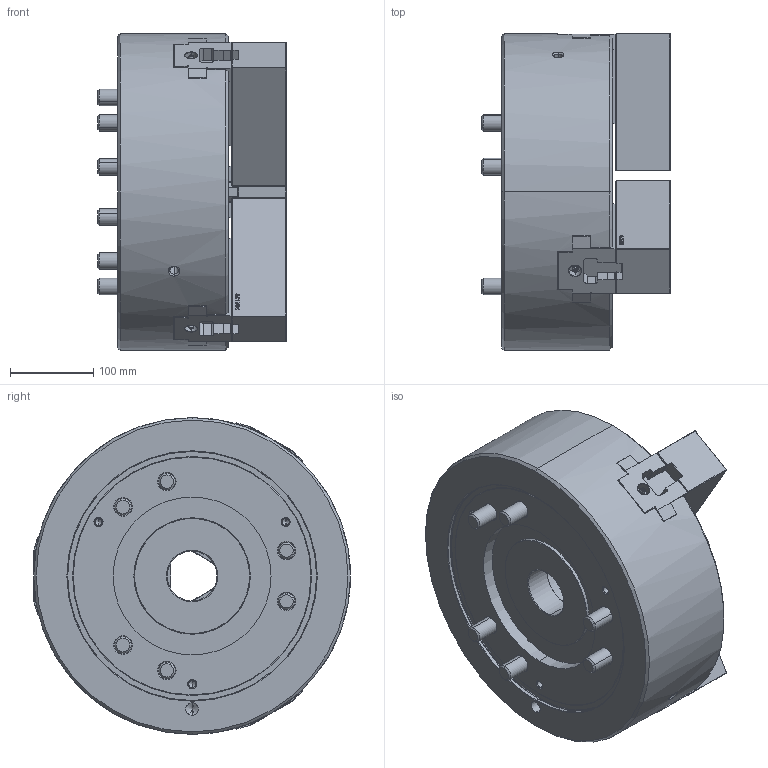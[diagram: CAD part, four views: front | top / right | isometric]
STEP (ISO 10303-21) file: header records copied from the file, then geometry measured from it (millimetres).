
FILE_DESCRIPTION (( 'STEP AP214' ), '1' );
FILE_NAME ('B-15_開端.STEP', '2025-04-03T09:53:50', ( '' ), ( '' ), 'SwSTEP 2.0', 'SolidWorks 2022', '' );
FILE_SCHEMA (( 'AUTOMOTIVE_DESIGN' ));
Length unit declared in the file: millimetre
Products named in the file (6): Part33^B-15_61P260416; Part30^B-15_61P260416; 61P401172; 61P303047; 0030120060; B-15_開端
Assembly tree (14 placements, depth 2):
  B-15_開端
    61P303047  x3
    61P401172  x3
    0030120060  x6
    Part30^B-15_61P260416
    Part33^B-15_61P260416
Bounding box: 227 x 381.25 x 381 mm (x, y, z)
Volume: 28049691.3 mm3; surface area: 1727850.5 mm2
Topology: 14 solids, 56 shells, 10685 faces, 30559 edges, 20078 vertices
Faces by surface type: plane 6564, cylinder 2809, cone 793, bspline 408, torus 99, sphere 12
Entity records: 269565 total; most frequent: CARTESIAN_POINT 72195, ORIENTED_EDGE 45218, DIRECTION 35603, EDGE_CURVE 22609, VECTOR 16005, LINE 16005, VERTEX_POINT 14867, AXIS2_PLACEMENT_3D 9799
